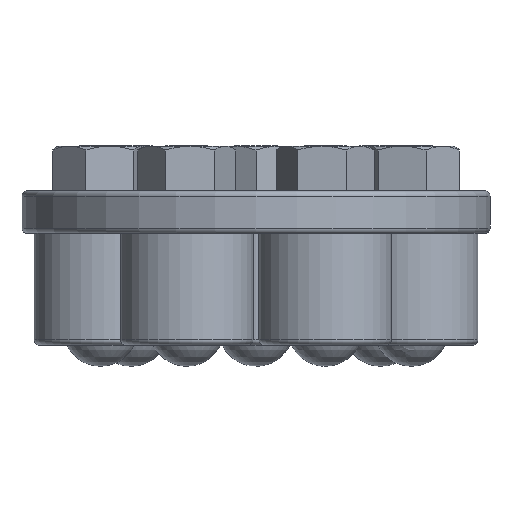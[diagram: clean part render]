
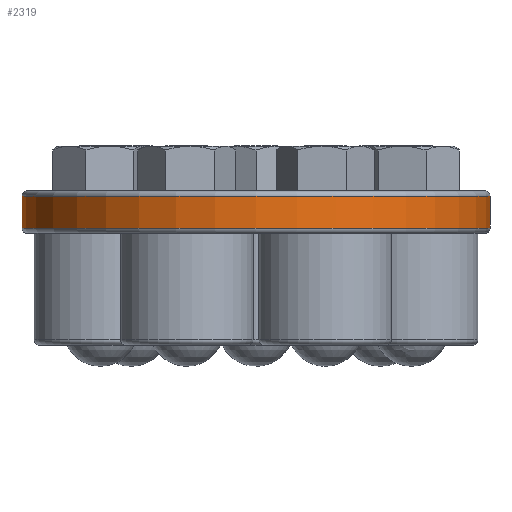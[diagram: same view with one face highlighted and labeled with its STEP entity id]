
A CAD part, front view. The second image highlights one B-rep face of the part: STEP entity #2319.
In plain terms, the highlighted cylindrical face has radius 44 mm (diameter 88 mm), a full revolution.
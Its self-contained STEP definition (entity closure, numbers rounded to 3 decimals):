
#545=CYLINDRICAL_SURFACE('',#2499,44.);
#562=FACE_BOUND('',#828,.T.);
#652=FACE_OUTER_BOUND('',#827,.T.);
#827=EDGE_LOOP('',(#1718));
#828=EDGE_LOOP('',(#1719));
#1090=CIRCLE('',#2498,44.);
#1091=CIRCLE('',#2500,44.);
#1215=VERTEX_POINT('',#3516);
#1216=VERTEX_POINT('',#3519);
#1424=EDGE_CURVE('',#1215,#1215,#1090,.T.);
#1425=EDGE_CURVE('',#1216,#1216,#1091,.T.);
#1718=ORIENTED_EDGE('',*,*,#1425,.F.);
#1719=ORIENTED_EDGE('',*,*,#1424,.F.);
#2319=ADVANCED_FACE('',(#652,#562),#545,.T.);
#2498=AXIS2_PLACEMENT_3D('',#3517,#2812,#2813);
#2499=AXIS2_PLACEMENT_3D('',#3518,#2814,#2815);
#2500=AXIS2_PLACEMENT_3D('',#3520,#2816,#2817);
#2812=DIRECTION('center_axis',(0.,0.,-1.));
#2813=DIRECTION('ref_axis',(-1.,0.,0.));
#2814=DIRECTION('center_axis',(0.,0.,-1.));
#2815=DIRECTION('ref_axis',(-1.,0.,0.));
#2816=DIRECTION('center_axis',(0.,0.,1.));
#2817=DIRECTION('ref_axis',(-1.,0.,0.));
#3516=CARTESIAN_POINT('',(44.,0.,-7.));
#3517=CARTESIAN_POINT('Origin',(0.,0.,-7.));
#3518=CARTESIAN_POINT('Origin',(0.,0.,0.));
#3519=CARTESIAN_POINT('',(44.,0.,-1.));
#3520=CARTESIAN_POINT('Origin',(0.,0.,-1.));
